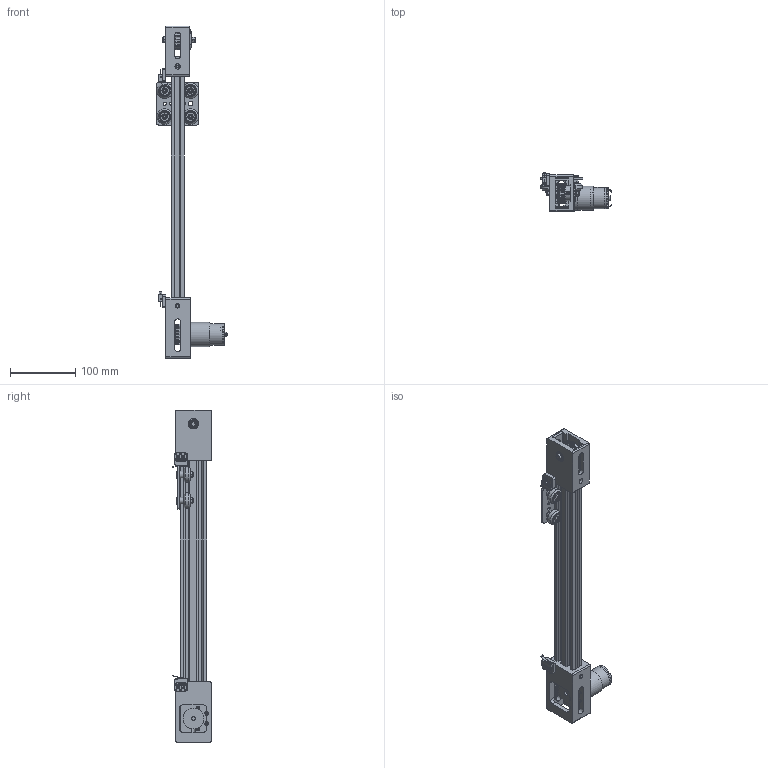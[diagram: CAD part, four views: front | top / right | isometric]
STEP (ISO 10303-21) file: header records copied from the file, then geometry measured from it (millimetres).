
FILE_DESCRIPTION(/* description */ (''),/* implementation_level */ '2;1');
FILE_NAME(/* name */ 'Assieme_slider_2040_370.stp',/* time_stamp */ '2025-10-14T13:35:11+02:00',/* author */ ('Ryzen5700u'),/* organization */ (''),/* preprocessor_version */ 'ST-DEVELOPER v20',/* originating_system */ 'Autodesk Inventor 2025',/* authorisation */ '');
FILE_SCHEMA (('AUTOMOTIVE_DESIGN { 1 0 10303 214 3 1 1 }'));
Length unit declared in the file: millimetre
Products named in the file (36): Assieme_slider_2040_370; 20x40x250mm; 20mm Gantry Set; 20mm gantry plate; V-Wheel Solid Wheel; Eccentric Spacer; V-Wheel Solid Wheel - spacer; Solid V-Wheel; Ball Bearing 625 2RS 5x16x5; 1mm 5mm shim; 6mm Spacer; M5 Nylock; M5x25 low profile screw; AS 1427 - M5 x 45; AS 1237 - 5; Assieme_tendi_cinghia; blocco_puleggia_cuscinetti; %3% BS 290 - SKF 625; AS 1420 - 1973 - M5 x 40; AS 1421 - M3 x 8 Punta a coppa; AS 1112 - M5  Tipo 5; blocco_nema2; JGB37-520_MIR_MIR; puleggia_40Tb; Microswitch-SS-3GL13SL; limit-switch-bottomcase; limit-switch-top-case; pins; switch_lever; piastra_finecorsa; Microswitch-SS-3GL13SL_MIR; limit-switch-bottomcase_MIR; limit-switch-top-case_MIR; pins_MIR; switch_lever_MIR; piastra_finecorsa_MIR
Assembly tree (50 placements, depth 4):
  Assieme_slider_2040_370
    20x40x250mm
    20mm Gantry Set
      20mm gantry plate
      V-Wheel Solid Wheel  x2
        Solid V-Wheel
        Ball Bearing 625 2RS 5x16x5
        Eccentric Spacer
        1mm 5mm shim
      V-Wheel Solid Wheel - spacer  x2
        Solid V-Wheel
        Ball Bearing 625 2RS 5x16x5
        1mm 5mm shim
        6mm Spacer
      M5x25 low profile screw  x4
      M5 Nylock  x4
    AS 1427 - M5 x 45
    AS 1237 - 5
    Assieme_tendi_cinghia
      blocco_puleggia_cuscinetti
      puleggia_40Tb
      %3% BS 290 - SKF 625  x2
      AS 1420 - 1973 - M5 x 40
      AS 1421 - M3 x 8 Punta a coppa
    AS 1112 - M5  Tipo 5
    blocco_nema2
    JGB37-520_MIR_MIR
    puleggia_40Tb
    Microswitch-SS-3GL13SL
      limit-switch-bottomcase
      limit-switch-top-case
      pins
      switch_lever
    piastra_finecorsa
    Microswitch-SS-3GL13SL_MIR
      limit-switch-bottomcase_MIR
      limit-switch-top-case_MIR
      pins_MIR
      switch_lever_MIR
    piastra_finecorsa_MIR
Bounding box: 109.63 x 60.5 x 509 mm (x, y, z)
Volume: 381551.3 mm3; surface area: 249796 mm2
Topology: 66 solids, 66 shells, 2029 faces, 5282 edges, 3485 vertices
Faces by surface type: plane 1140, cylinder 696, bspline 66, torus 62, cone 44, sphere 21
Full cylindrical faces by diameter (mm): 1.1 x8, 1.2 x14, 1.6 x7, 1.75 x2, 2 x3, 2.5 x10, 2.6 x3, 2.7 x6, 3 x1, 3.2 x8, 4 x3, 4.018 x1, 4.134 x1, 4.2 x5, 4.3 x4, 5 x40, 5.1 x2, 5.3 x1, 5.5 x2, 6 x10, 7 x18, 7.12 x2, 7.2 x3, 7.5 x1, 8 x2, 8.5 x1, 8.52 x4, 9.5 x1, 10 x7, 11 x4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
Entity records: 56973 total; most frequent: CARTESIAN_POINT 15589, ORIENTED_EDGE 8226, DIRECTION 8030, EDGE_CURVE 4113, VERTEX_POINT 2717, AXIS2_PLACEMENT_3D 2692, LINE 2646, VECTOR 2646
